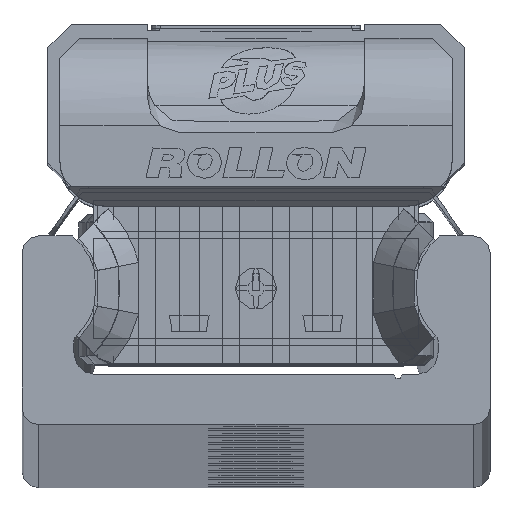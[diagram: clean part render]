
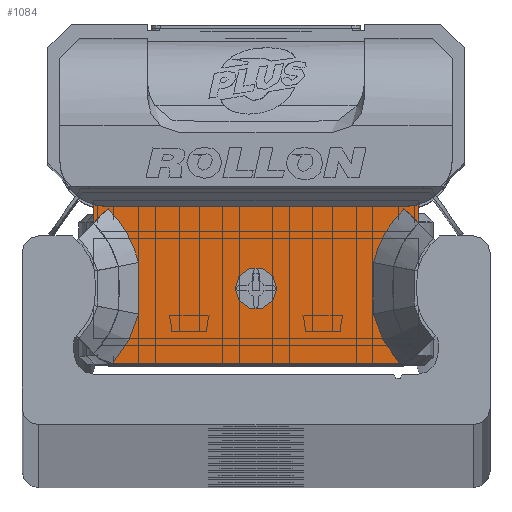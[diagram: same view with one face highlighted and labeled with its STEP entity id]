
A CAD part, top view. The second image highlights one B-rep face of the part: STEP entity #1084.
In plain terms, the highlighted planar face has unit normal (0, 0, 1) as drawn and (0, 0, -1) by its records, which use the part's own axes.
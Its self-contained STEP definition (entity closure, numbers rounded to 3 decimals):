
#1084 = ADVANCED_FACE( '', ( #2673, #2674 ), #2675, .F. );
#2673 = FACE_BOUND( '', #5024, .T. );
#2674 = FACE_OUTER_BOUND( '', #5025, .T. );
#2675 = PLANE( '', #5026 );
#5024 = EDGE_LOOP( '', ( #8018 ) );
#5025 = EDGE_LOOP( '', ( #8019, #8020, #8021, #8022, #8023, #8024, #8025, #8026, #8027, #8028, #8029, #8030, #8031, #8032 ) );
#5026 = AXIS2_PLACEMENT_3D( '', #8033, #8034, #8035 );
#8018 = ORIENTED_EDGE( '', *, *, #13434, .T. );
#8019 = ORIENTED_EDGE( '', *, *, #13435, .F. );
#8020 = ORIENTED_EDGE( '', *, *, #13436, .T. );
#8021 = ORIENTED_EDGE( '', *, *, #13437, .T. );
#8022 = ORIENTED_EDGE( '', *, *, #13138, .T. );
#8023 = ORIENTED_EDGE( '', *, *, #13438, .T. );
#8024 = ORIENTED_EDGE( '', *, *, #13439, .T. );
#8025 = ORIENTED_EDGE( '', *, *, #13440, .T. );
#8026 = ORIENTED_EDGE( '', *, *, #13441, .T. );
#8027 = ORIENTED_EDGE( '', *, *, #13442, .T. );
#8028 = ORIENTED_EDGE( '', *, *, #13443, .T. );
#8029 = ORIENTED_EDGE( '', *, *, #13444, .T. );
#8030 = ORIENTED_EDGE( '', *, *, #13445, .T. );
#8031 = ORIENTED_EDGE( '', *, *, #13446, .T. );
#8032 = ORIENTED_EDGE( '', *, *, #13447, .T. );
#8033 = CARTESIAN_POINT( '', ( 9.7, 4.89, -10.6 ) );
#8034 = DIRECTION( '', ( 0., 0., 1. ) );
#8035 = DIRECTION( '', ( 1., 0., 0. ) );
#13138 = EDGE_CURVE( '', #15616, #15626, #15628, .T. );
#13434 = EDGE_CURVE( '', #16128, #16128, #16129, .T. );
#13435 = EDGE_CURVE( '', #16130, #15901, #16131, .T. );
#13436 = EDGE_CURVE( '', #16130, #16132, #16133, .T. );
#13437 = EDGE_CURVE( '', #16132, #15616, #16134, .T. );
#13438 = EDGE_CURVE( '', #15626, #15787, #16135, .T. );
#13439 = EDGE_CURVE( '', #15787, #16136, #16137, .T. );
#13440 = EDGE_CURVE( '', #16136, #16138, #16139, .T. );
#13441 = EDGE_CURVE( '', #16138, #16140, #16141, .T. );
#13442 = EDGE_CURVE( '', #16140, #16142, #16143, .T. );
#13443 = EDGE_CURVE( '', #16142, #15604, #16144, .T. );
#13444 = EDGE_CURVE( '', #15604, #16145, #16146, .T. );
#13445 = EDGE_CURVE( '', #16145, #16147, #16148, .T. );
#13446 = EDGE_CURVE( '', #16147, #16149, #16150, .T. );
#13447 = EDGE_CURVE( '', #16149, #15901, #16151, .T. );
#15604 = VERTEX_POINT( '', #19158 );
#15616 = VERTEX_POINT( '', #19172 );
#15626 = VERTEX_POINT( '', #19184 );
#15628 = CIRCLE( '', #19187, 2.8 );
#15787 = VERTEX_POINT( '', #19391 );
#15901 = VERTEX_POINT( '', #19555 );
#16128 = VERTEX_POINT( '', #19866 );
#16129 = CIRCLE( '', #19867, 1.25 );
#16130 = VERTEX_POINT( '', #19868 );
#16131 = LINE( '', #19869, #19870 );
#16132 = VERTEX_POINT( '', #19871 );
#16133 = CIRCLE( '', #19872, 2.8 );
#16134 = LINE( '', #19873, #19874 );
#16135 = LINE( '', #19875, #19876 );
#16136 = VERTEX_POINT( '', #19877 );
#16137 = LINE( '', #19878, #19879 );
#16138 = VERTEX_POINT( '', #19880 );
#16139 = B_SPLINE_CURVE_WITH_KNOTS( '', 2, ( #19881, #19882, #19883, #19884, #19885 ), .UNSPECIFIED., .F., .F., ( 3, 2, 3 ), ( 0., 0.5, 1. ), .UNSPECIFIED. );
#16140 = VERTEX_POINT( '', #19886 );
#16141 = B_SPLINE_CURVE_WITH_KNOTS( '', 2, ( #19887, #19888, #19889 ), .UNSPECIFIED., .F., .F., ( 3, 3 ), ( 0., 1. ), .UNSPECIFIED. );
#16142 = VERTEX_POINT( '', #19890 );
#16143 = B_SPLINE_CURVE_WITH_KNOTS( '', 2, ( #19891, #19892, #19893 ), .UNSPECIFIED., .F., .F., ( 3, 3 ), ( 0., 1. ), .UNSPECIFIED. );
#16144 = LINE( '', #19894, #19895 );
#16145 = VERTEX_POINT( '', #19896 );
#16146 = B_SPLINE_CURVE_WITH_KNOTS( '', 2, ( #19897, #19898, #19899 ), .UNSPECIFIED., .F., .F., ( 3, 3 ), ( 0.1, 1. ), .UNSPECIFIED. );
#16147 = VERTEX_POINT( '', #19900 );
#16148 = B_SPLINE_CURVE_WITH_KNOTS( '', 2, ( #19901, #19902, #19903 ), .UNSPECIFIED., .F., .F., ( 3, 3 ), ( 0., 1. ), .UNSPECIFIED. );
#16149 = VERTEX_POINT( '', #19904 );
#16150 = B_SPLINE_CURVE_WITH_KNOTS( '', 2, ( #19905, #19906, #19907 ), .UNSPECIFIED., .F., .F., ( 3, 3 ), ( 0., 1. ), .UNSPECIFIED. );
#16151 = LINE( '', #19908, #19909 );
#19158 = CARTESIAN_POINT( '', ( -8.59, -4.893, -10.6 ) );
#19172 = CARTESIAN_POINT( '', ( 8.95, 4.51, -10.6 ) );
#19184 = CARTESIAN_POINT( '', ( 9.7, 4.612, -10.6 ) );
#19187 = AXIS2_PLACEMENT_3D( '', #23652, #23653, #23654 );
#19391 = CARTESIAN_POINT( '', ( 9.7, 3.497, -10.6 ) );
#19555 = CARTESIAN_POINT( '', ( -9.7, 3.494, -10.6 ) );
#19866 = CARTESIAN_POINT( '', ( 1.25, -0.39, -10.6 ) );
#19867 = AXIS2_PLACEMENT_3D( '', #24033, #24034, #24035 );
#19868 = CARTESIAN_POINT( '', ( -9.7, 4.612, -10.6 ) );
#19869 = CARTESIAN_POINT( '', ( -9.7, 4.89, -10.6 ) );
#19870 = VECTOR( '', #24036, 1000. );
#19871 = CARTESIAN_POINT( '', ( -8.95, 4.51, -10.6 ) );
#19872 = AXIS2_PLACEMENT_3D( '', #24037, #24038, #24039 );
#19873 = CARTESIAN_POINT( '', ( 9.7, 4.51, -10.6 ) );
#19874 = VECTOR( '', #24040, 1000. );
#19875 = CARTESIAN_POINT( '', ( 9.7, 4.89, -10.6 ) );
#19876 = VECTOR( '', #24041, 1000. );
#19877 = CARTESIAN_POINT( '', ( 8.853, 4.366, -10.6 ) );
#19878 = CARTESIAN_POINT( '', ( 9.7, 3.501, -10.6 ) );
#19879 = VECTOR( '', #24042, 1000. );
#19880 = CARTESIAN_POINT( '', ( 7.031, 1.144, -10.6 ) );
#19881 = CARTESIAN_POINT( '', ( 8.853, 4.366, -10.6 ) );
#19882 = CARTESIAN_POINT( '', ( 8.182, 3.708, -10.6 ) );
#19883 = CARTESIAN_POINT( '', ( 7.715, 2.883, -10.6 ) );
#19884 = CARTESIAN_POINT( '', ( 7.249, 2.058, -10.6 ) );
#19885 = CARTESIAN_POINT( '', ( 7.031, 1.144, -10.6 ) );
#19886 = CARTESIAN_POINT( '', ( 7.031, -1.944, -10.6 ) );
#19887 = CARTESIAN_POINT( '', ( 7.031, 1.144, -10.6 ) );
#19888 = CARTESIAN_POINT( '', ( 6.929, -0.4, -10.6 ) );
#19889 = CARTESIAN_POINT( '', ( 7.031, -1.944, -10.6 ) );
#19890 = CARTESIAN_POINT( '', ( 8.59, -4.893, -10.6 ) );
#19891 = CARTESIAN_POINT( '', ( 7.031, -1.944, -10.6 ) );
#19892 = CARTESIAN_POINT( '', ( 7.429, -3.615, -10.6 ) );
#19893 = CARTESIAN_POINT( '', ( 8.588, -4.89, -10.6 ) );
#19894 = CARTESIAN_POINT( '', ( 9.7, -4.89, -10.6 ) );
#19895 = VECTOR( '', #24043, 1000. );
#19896 = CARTESIAN_POINT( '', ( -7.031, -1.944, -10.6 ) );
#19897 = CARTESIAN_POINT( '', ( -8.587, -4.89, -10.6 ) );
#19898 = CARTESIAN_POINT( '', ( -7.432, -3.63, -10.6 ) );
#19899 = CARTESIAN_POINT( '', ( -7.031, -1.944, -10.6 ) );
#19900 = CARTESIAN_POINT( '', ( -7.031, 1.144, -10.6 ) );
#19901 = CARTESIAN_POINT( '', ( -7.031, -1.944, -10.6 ) );
#19902 = CARTESIAN_POINT( '', ( -6.929, -0.4, -10.6 ) );
#19903 = CARTESIAN_POINT( '', ( -7.031, 1.144, -10.6 ) );
#19904 = CARTESIAN_POINT( '', ( -8.853, 4.366, -10.6 ) );
#19905 = CARTESIAN_POINT( '', ( -7.031, 1.144, -10.6 ) );
#19906 = CARTESIAN_POINT( '', ( -7.477, 3.018, -10.6 ) );
#19907 = CARTESIAN_POINT( '', ( -8.853, 4.366, -10.6 ) );
#19908 = CARTESIAN_POINT( '', ( -8.853, 4.366, -10.6 ) );
#19909 = VECTOR( '', #24044, 1000. );
#23652 = CARTESIAN_POINT( '', ( 8.95, 7.31, -10.6 ) );
#23653 = DIRECTION( '', ( 0., 0., 1. ) );
#23654 = DIRECTION( '', ( 1., 0., 0. ) );
#24033 = CARTESIAN_POINT( '', ( 0., -0.39, -10.6 ) );
#24034 = DIRECTION( '', ( 0., 0., 1. ) );
#24035 = DIRECTION( '', ( 1., 0., 0. ) );
#24036 = DIRECTION( '', ( 0., -1., 0. ) );
#24037 = CARTESIAN_POINT( '', ( -8.95, 7.31, -10.6 ) );
#24038 = DIRECTION( '', ( 0., 0., 1. ) );
#24039 = DIRECTION( '', ( 1., 0., 0. ) );
#24040 = DIRECTION( '', ( 1., 0., 0. ) );
#24041 = DIRECTION( '', ( 0., -1., 0. ) );
#24042 = DIRECTION( '', ( -0.7, 0.714, 0. ) );
#24043 = DIRECTION( '', ( -1., 0., 0. ) );
#24044 = DIRECTION( '', ( -0.7, -0.714, 0. ) );
